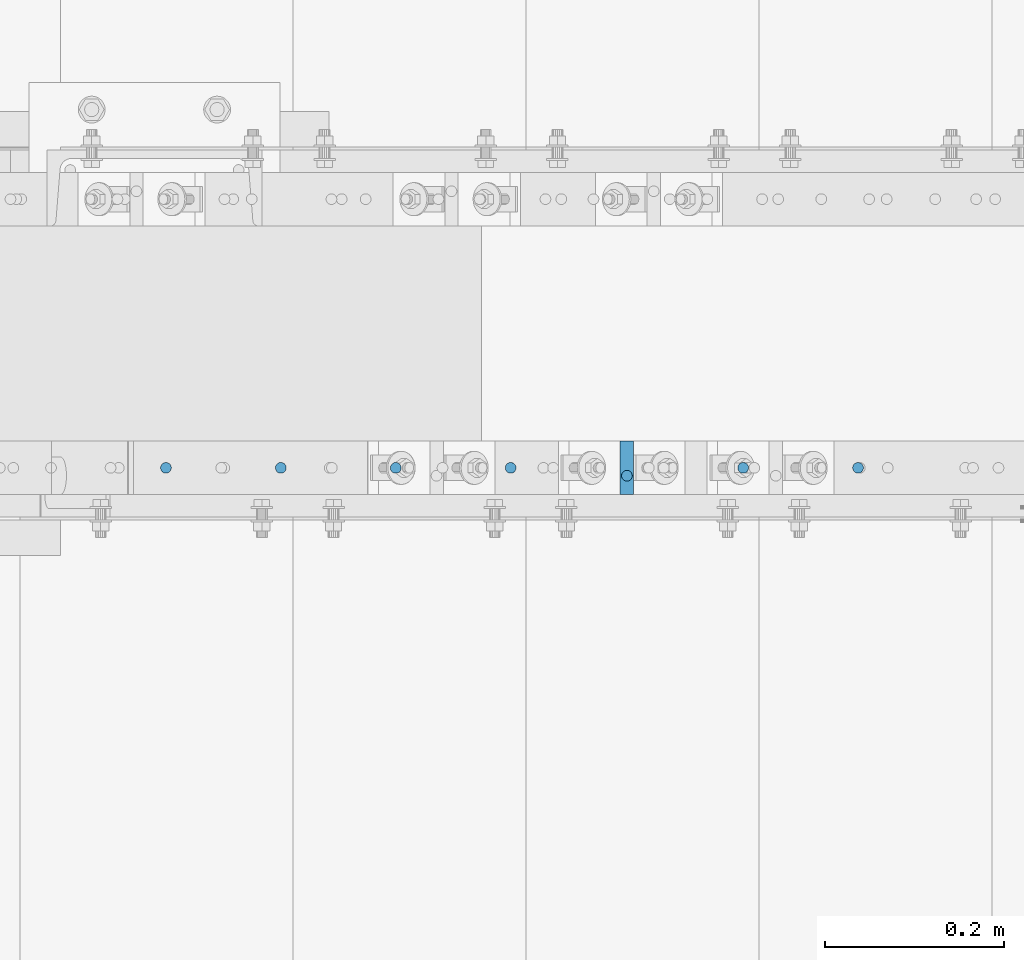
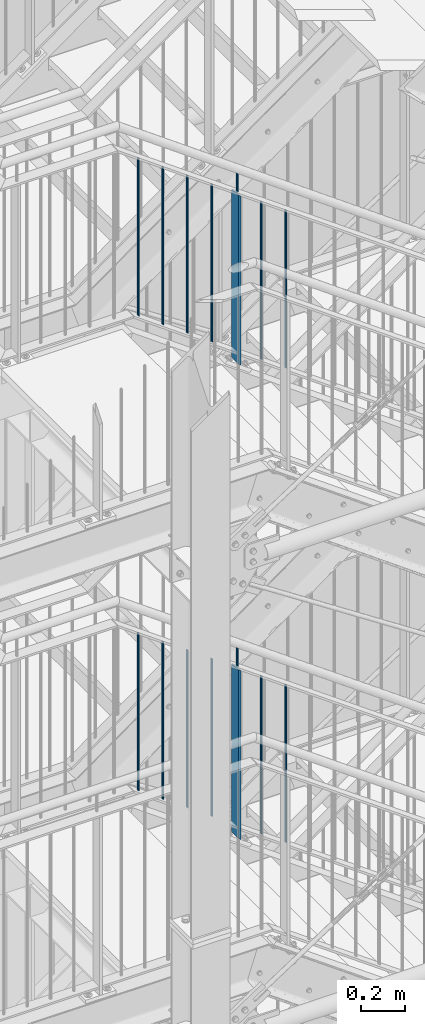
# One storey, part 49 of 825: 16 columns.
"""IFC2X3 building model written with IfcOpenShell, lengths in millimetres."""

from ifc_helpers import new_model, entity, si_unit, converted_unit, frame, origin, origin_with_axes, origin_2d, place, context, project, spatial, rectangle, circle, extrude, clip, halfspace, material, element, save


model = new_model("IFC2X3")

# Units and contexts
model_context = context("Model", 3, precision=1e-09, world=origin_with_axes())
ifc_project = project(units=[si_unit("LENGTHUNIT", "METRE", prefix="MILLI"), si_unit("AREAUNIT", "SQUARE_METRE"), si_unit("VOLUMEUNIT", "CUBIC_METRE"), converted_unit("PLANEANGLEUNIT", "DEGREE", entity("IfcPlaneAngleMeasure", 0.01745329), si_unit("PLANEANGLEUNIT", "RADIAN"), dimensions=[0, 0, 0, 0, 0, 0, 0])], contexts=[model_context])

# Site, building, storey
site_placement = place(None, origin_with_axes())
site = spatial("IfcSite", under=ifc_project, at=site_placement, Name="Cnopf'sche Kinderklinik", CompositionType="ELEMENT")
building_placement = place(site_placement, origin_with_axes())
building = spatial("IfcBuilding", under=site, at=building_placement, Name="Struktur 1", CompositionType="ELEMENT")
storey_placement = place(building_placement, origin_with_axes())
storey = spatial("IfcBuildingStorey", under=building, at=storey_placement, Name="Default Storey", CompositionType="ELEMENT", Elevation=0.0)

# Columns
ifc_material = material(Name="S235JR")
column_1_placement = place(None, frame((5869.213902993, 5791.736971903, 13162.181059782), z_axis=(0.0, 0.0, 1.0), x_axis=(-1.0, 0.0, 0.0)))
element("IfcColumn", 1, at=column_1_placement, inside=storey, material=ifc_material, Name="Railing_Post_Stair#1", ObjectType="Railing_Post_Stair#1", context=model_context, shape_type="Clipping", body=[
    clip(clip(extrude(rectangle(XDim=15.0, YDim=60.0, at=origin_2d()), origin(), (0.0, 0.0, -1.0), 1013.129684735), halfspace(frame((-1924.127349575, 5791.736971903, -2363.641978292), z_axis=(-0.585213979, 0.0, 0.810878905), x_axis=(0.0, -1.0, 0.0)), True)), halfspace(frame((-2368.700894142, 5791.736971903, -1747.636001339), z_axis=(0.585213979, 0.0, -0.810878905), x_axis=(0.0, 1.0, 0.0)), True)),
])
column_2_placement = place(None, frame((6127.271117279, 5791.736971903, 12948.269094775), z_axis=(0.0, 0.0, 1.0), x_axis=(-1.0, 0.0, 0.0)))
element("IfcColumn", 2, at=column_2_placement, inside=storey, material=ifc_material, Name="Railing_Picket_Stair#6", ObjectType="Railing_Picket_Stair#6", context=model_context, shape_type="Clipping", body=[
    clip(clip(extrude(circle(Radius=6.0, at=origin_2d()), origin(), (0.0, 0.0, -1.0), 896.125751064), halfspace(frame((-2110.643679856, 5791.736971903, -1533.724036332), z_axis=(0.585213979, 0.0, -0.810878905), x_axis=(0.0, 1.0, 0.0)), True)), halfspace(frame((-1695.330834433, 5791.736971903, -2109.18606823), z_axis=(-0.585213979, 0.0, 0.810878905), x_axis=(0.0, -1.0, 0.0)), True)),
])
column_3_placement = place(None, frame((5998.993902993, 5791.736971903, 13040.847183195), z_axis=(0.0, 0.0, 1.0), x_axis=(-1.0, 0.0, 0.0)))
element("IfcColumn", 3, at=column_3_placement, inside=storey, material=ifc_material, Name="Railing_Picket_Stair#7", ObjectType="Railing_Picket_Stair#7", context=model_context, shape_type="Clipping", body=[
    clip(clip(extrude(circle(Radius=6.0, at=origin_2d()), origin(), (0.0, 0.0, -1.0), 896.125751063), halfspace(frame((-2238.920894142, 5791.736971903, -1626.302124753), z_axis=(0.585213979, 0.0, -0.810878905), x_axis=(0.0, 1.0, 0.0)), True)), halfspace(frame((-1823.608048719, 5791.736971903, -2201.764156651), z_axis=(-0.585213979, 0.0, 0.810878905), x_axis=(0.0, -1.0, 0.0)), True)),
])
column_4_placement = place(None, frame((5739.433902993, 5791.736971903, 13228.172490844), z_axis=(0.0, 0.0, 1.0), x_axis=(-1.0, 0.0, 0.0)))
element("IfcColumn", 4, at=column_4_placement, inside=storey, material=ifc_material, Name="Railing_Picket_Stair#8", ObjectType="Railing_Picket_Stair#8", context=model_context, shape_type="Clipping", body=[
    clip(clip(extrude(circle(Radius=6.0, at=origin_2d()), origin(), (0.0, 0.0, -1.0), 896.125751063), halfspace(frame((-2498.480894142, 5791.736971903, -1813.627432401), z_axis=(0.585213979, 0.0, -0.810878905), x_axis=(0.0, 1.0, 0.0)), True)), halfspace(frame((-2083.168048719, 5791.736971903, -2389.0894643), z_axis=(-0.585213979, 0.0, 0.810878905), x_axis=(0.0, -1.0, 0.0)), True)),
])
column_5_placement = place(None, frame((5611.156688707, 5791.736971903, 13320.750579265), z_axis=(0.0, 0.0, 1.0), x_axis=(-1.0, 0.0, 0.0)))
element("IfcColumn", 5, at=column_5_placement, inside=storey, material=ifc_material, Name="Railing_Picket_Stair#9", ObjectType="Railing_Picket_Stair#9", context=model_context, shape_type="Clipping", body=[
    clip(clip(extrude(circle(Radius=6.0, at=origin_2d()), origin(), (0.0, 0.0, -1.0), 896.125751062), halfspace(frame((-2626.758108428, 5791.736971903, -1906.205520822), z_axis=(0.585213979, 0.0, -0.810878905), x_axis=(0.0, 1.0, 0.0)), True)), halfspace(frame((-2211.445263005, 5791.736971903, -2481.66755272), z_axis=(-0.585213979, 0.0, 0.810878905), x_axis=(0.0, -1.0, 0.0)), True)),
])
column_6_placement = place(None, frame((5482.879474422, 5791.736971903, 13413.328667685), z_axis=(0.0, 0.0, 1.0), x_axis=(-1.0, 0.0, 0.0)))
element("IfcColumn", 6, at=column_6_placement, inside=storey, material=ifc_material, Name="Railing_Picket_Stair#10", ObjectType="Railing_Picket_Stair#10", context=model_context, shape_type="Clipping", body=[
    clip(clip(extrude(circle(Radius=6.0, at=origin_2d()), origin(), (0.0, 0.0, -1.0), 896.125751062), halfspace(frame((-2755.035322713, 5791.736971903, -1998.783609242), z_axis=(0.585213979, 0.0, -0.810878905), x_axis=(0.0, 1.0, 0.0)), True)), halfspace(frame((-2339.722477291, 5791.736971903, -2574.245641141), z_axis=(-0.585213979, 0.0, 0.810878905), x_axis=(0.0, -1.0, 0.0)), True)),
])
column_7_placement = place(None, frame((5354.602260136, 5791.736971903, 13505.906756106), z_axis=(0.0, 0.0, 1.0), x_axis=(-1.0, 0.0, 0.0)))
element("IfcColumn", 7, at=column_7_placement, inside=storey, material=ifc_material, Name="Railing_Picket_Stair#11", ObjectType="Railing_Picket_Stair#11", context=model_context, shape_type="Clipping", body=[
    clip(clip(extrude(circle(Radius=6.0, at=origin_2d()), origin(), (0.0, 0.0, -1.0), 896.125751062), halfspace(frame((-2883.312536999, 5791.736971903, -2091.361697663), z_axis=(0.585213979, 0.0, -0.810878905), x_axis=(0.0, 1.0, 0.0)), True)), halfspace(frame((-2467.999691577, 5791.736971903, -2666.823729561), z_axis=(-0.585213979, 0.0, 0.810878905), x_axis=(0.0, -1.0, 0.0)), True)),
])
column_8_placement = place(None, frame((5869.213902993, 5782.936971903, 13246.84213465), z_axis=(0.0, 0.0, 1.0), x_axis=(0.0, 1.0, 0.0)))
element("IfcColumn", 8, at=column_8_placement, inside=storey, material=ifc_material, Name="Bar#1", ObjectType="Bar#1", context=model_context, shape_type="Clipping", body=[
    clip(clip(extrude(circle(Radius=6.0, at=origin_2d()), origin(), (0.0, 0.0, -1.0), 120.928603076), halfspace(frame((-5782.936971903, -2374.554204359, -1824.186665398), z_axis=(0.0, -0.585213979, 0.810878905), x_axis=(1.0, 0.0, 0.0)), True)), halfspace(frame((-5782.936971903, -2422.006800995, -1758.435827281), z_axis=(0.0, 0.585213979, -0.810878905), x_axis=(-1.0, 0.0, 0.0)), True)),
])
column_9_placement = place(None, frame((5869.213902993, 5791.736971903, 15795.790592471), z_axis=(0.0, 0.0, 1.0), x_axis=(-1.0, 0.0, 0.0)))
element("IfcColumn", 9, at=column_9_placement, inside=storey, material=ifc_material, Name="Railing_Post_Stair#1", ObjectType="Railing_Post_Stair#1", context=model_context, shape_type="Clipping", body=[
    clip(clip(extrude(rectangle(XDim=15.0, YDim=60.0, at=origin_2d()), origin(), (0.0, 0.0, -1.0), 1013.143391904), halfspace(frame((-3188.643124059, 5791.736971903, -3283.229081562), z_axis=(-0.586383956, 0.0, 0.810033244), x_axis=(0.0, -1.0, 0.0)), True)), halfspace(frame((-3633.609590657, 5791.736971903, -2668.550547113), z_axis=(0.586383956, 0.0, -0.810033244), x_axis=(0.0, 1.0, 0.0)), True)),
])
column_10_placement = place(None, frame((6127.271117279, 5791.736971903, 15581.282580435), z_axis=(0.0, 0.0, 1.0), x_axis=(-1.0, 0.0, 0.0)))
element("IfcColumn", 10, at=column_10_placement, inside=storey, material=ifc_material, Name="Railing_Picket_Stair#6", ObjectType="Railing_Picket_Stair#6", context=model_context, shape_type="Clipping", body=[
    clip(clip(extrude(circle(Radius=6.0, at=origin_2d()), origin(), (0.0, 0.0, -1.0), 896.017308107), halfspace(frame((-3375.552376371, 5791.736971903, -2454.042535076), z_axis=(0.586383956, 0.0, -0.810033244), x_axis=(0.0, 1.0, 0.0)), True)), halfspace(frame((-2959.905107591, 5791.736971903, -3028.219407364), z_axis=(-0.586383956, 0.0, 0.810033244), x_axis=(0.0, -1.0, 0.0)), True)),
])
column_11_placement = place(None, frame((5998.993902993, 5791.736971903, 15674.142596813), z_axis=(0.0, 0.0, 1.0), x_axis=(-1.0, 0.0, 0.0)))
element("IfcColumn", 11, at=column_11_placement, inside=storey, material=ifc_material, Name="Railing_Picket_Stair#7", ObjectType="Railing_Picket_Stair#7", context=model_context, shape_type="Clipping", body=[
    clip(clip(extrude(circle(Radius=6.0, at=origin_2d()), origin(), (0.0, 0.0, -1.0), 896.017308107), halfspace(frame((-3503.829590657, 5791.736971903, -2546.902551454), z_axis=(0.586383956, 0.0, -0.810033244), x_axis=(0.0, 1.0, 0.0)), True)), halfspace(frame((-3088.182321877, 5791.736971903, -3121.079423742), z_axis=(-0.586383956, 0.0, 0.810033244), x_axis=(0.0, -1.0, 0.0)), True)),
])
column_12_placement = place(None, frame((5739.433902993, 5791.736971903, 15862.038366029), z_axis=(0.0, 0.0, 1.0), x_axis=(-1.0, 0.0, 0.0)))
element("IfcColumn", 12, at=column_12_placement, inside=storey, material=ifc_material, Name="Railing_Picket_Stair#8", ObjectType="Railing_Picket_Stair#8", context=model_context, shape_type="Clipping", body=[
    clip(clip(extrude(circle(Radius=6.0, at=origin_2d()), origin(), (0.0, 0.0, -1.0), 896.017308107), halfspace(frame((-3763.389590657, 5791.736971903, -2734.798320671), z_axis=(0.586383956, 0.0, -0.810033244), x_axis=(0.0, 1.0, 0.0)), True)), halfspace(frame((-3347.742321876, 5791.736971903, -3308.975192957), z_axis=(-0.586383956, 0.0, 0.810033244), x_axis=(0.0, -1.0, 0.0)), True)),
])
column_13_placement = place(None, frame((5611.156688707, 5791.736971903, 15954.898382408), z_axis=(0.0, 0.0, 1.0), x_axis=(-1.0, 0.0, 0.0)))
element("IfcColumn", 13, at=column_13_placement, inside=storey, material=ifc_material, Name="Railing_Picket_Stair#9", ObjectType="Railing_Picket_Stair#9", context=model_context, shape_type="Clipping", body=[
    clip(clip(extrude(circle(Radius=6.0, at=origin_2d()), origin(), (0.0, 0.0, -1.0), 896.017308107), halfspace(frame((-3891.666804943, 5791.736971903, -2827.658337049), z_axis=(0.586383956, 0.0, -0.810033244), x_axis=(0.0, 1.0, 0.0)), True)), halfspace(frame((-3476.019536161, 5791.736971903, -3401.835209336), z_axis=(-0.586383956, 0.0, 0.810033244), x_axis=(0.0, -1.0, 0.0)), True)),
])
column_14_placement = place(None, frame((5482.879474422, 5791.736971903, 16047.758398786), z_axis=(0.0, 0.0, 1.0), x_axis=(-1.0, 0.0, 0.0)))
element("IfcColumn", 14, at=column_14_placement, inside=storey, material=ifc_material, Name="Railing_Picket_Stair#10", ObjectType="Railing_Picket_Stair#10", context=model_context, shape_type="Clipping", body=[
    clip(clip(extrude(circle(Radius=6.0, at=origin_2d()), origin(), (0.0, 0.0, -1.0), 896.017308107), halfspace(frame((-4019.944019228, 5791.736971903, -2920.518353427), z_axis=(0.586383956, 0.0, -0.810033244), x_axis=(0.0, 1.0, 0.0)), True)), halfspace(frame((-3604.296750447, 5791.736971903, -3494.695225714), z_axis=(-0.586383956, 0.0, 0.810033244), x_axis=(0.0, -1.0, 0.0)), True)),
])
column_15_placement = place(None, frame((5354.602260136, 5791.736971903, 16140.618415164), z_axis=(0.0, 0.0, 1.0), x_axis=(-1.0, 0.0, 0.0)))
element("IfcColumn", 15, at=column_15_placement, inside=storey, material=ifc_material, Name="Railing_Picket_Stair#11", ObjectType="Railing_Picket_Stair#11", context=model_context, shape_type="Clipping", body=[
    clip(clip(extrude(circle(Radius=6.0, at=origin_2d()), origin(), (0.0, 0.0, -1.0), 896.017308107), halfspace(frame((-4148.221233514, 5791.736971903, -3013.378369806), z_axis=(0.586383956, 0.0, -0.810033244), x_axis=(0.0, 1.0, 0.0)), True)), halfspace(frame((-3732.573964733, 5791.736971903, -3587.555242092), z_axis=(-0.586383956, 0.0, 0.810033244), x_axis=(0.0, -1.0, 0.0)), True)),
])
column_16_placement = place(None, frame((5869.213902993, 5782.936971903, 15880.435653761), z_axis=(0.0, 0.0, 1.0), x_axis=(0.0, 1.0, 0.0)))
element("IfcColumn", 16, at=column_16_placement, inside=storey, material=ifc_material, Name="Bar#1", ObjectType="Bar#1", context=model_context, shape_type="Clipping", body=[
    clip(clip(extrude(circle(Radius=6.0, at=origin_2d()), origin(), (0.0, 0.0, -1.0), 120.950452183), halfspace(frame((-5782.936971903, -3639.47460298, -2745.093655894), z_axis=(0.0, -0.586383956, 0.810033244), x_axis=(1.0, 0.0, 0.0)), True)), halfspace(frame((-5782.936971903, -3686.972479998, -2679.479890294), z_axis=(0.0, 0.586383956, -0.810033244), x_axis=(-1.0, 0.0, 0.0)), True)),
])

save(model, "model.ifc")
